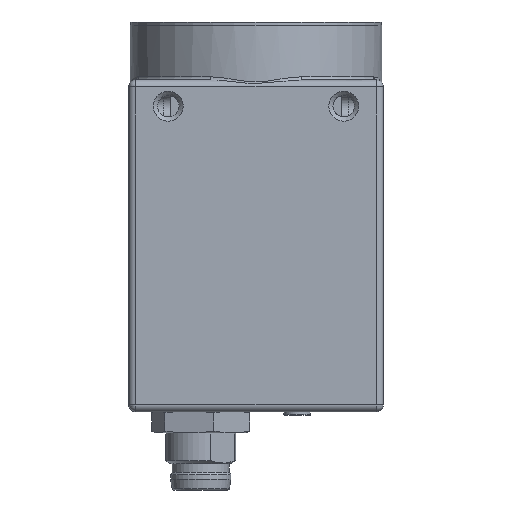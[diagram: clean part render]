
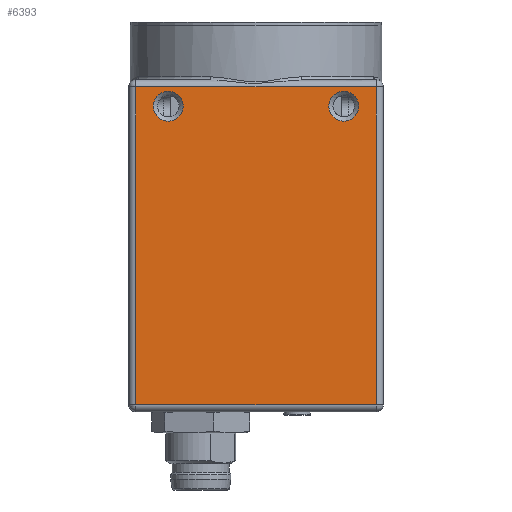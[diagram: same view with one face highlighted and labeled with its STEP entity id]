
A CAD part, left-side view. The second image highlights one B-rep face of the part: STEP entity #6393.
In plain terms, the highlighted planar face has unit normal (-1, 0, 0).
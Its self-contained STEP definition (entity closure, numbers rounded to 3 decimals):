
#6393 = ADVANCED_FACE( '', ( #13638, #13639, #13640 ), #13641, .T. );
#13638 = FACE_BOUND( '', #24364, .T. );
#13639 = FACE_BOUND( '', #24365, .T. );
#13640 = FACE_OUTER_BOUND( '', #24366, .T. );
#13641 = PLANE( '', #24367 );
#24364 = EDGE_LOOP( '', ( #38939 ) );
#24365 = EDGE_LOOP( '', ( #38940 ) );
#24366 = EDGE_LOOP( '', ( #38941, #38942, #38943, #38944 ) );
#24367 = AXIS2_PLACEMENT_3D( '', #38945, #38946, #38947 );
#38939 = ORIENTED_EDGE( '', *, *, #44865, .T. );
#38940 = ORIENTED_EDGE( '', *, *, #41557, .T. );
#38941 = ORIENTED_EDGE( '', *, *, #41578, .T. );
#38942 = ORIENTED_EDGE( '', *, *, #44799, .T. );
#38943 = ORIENTED_EDGE( '', *, *, #40873, .T. );
#38944 = ORIENTED_EDGE( '', *, *, #44869, .T. );
#38945 = CARTESIAN_POINT( '', ( -14.5, -14.5, 12.2 ) );
#38946 = DIRECTION( '', ( -1., 0., 0. ) );
#38947 = DIRECTION( '', ( 0., 0., 1. ) );
#40873 = EDGE_CURVE( '', #46474, #46472, #46475, .T. );
#41557 = EDGE_CURVE( '', #47593, #47593, #47594, .T. );
#41578 = EDGE_CURVE( '', #47627, #46722, #47628, .T. );
#44799 = EDGE_CURVE( '', #46722, #46474, #52187, .F. );
#44865 = EDGE_CURVE( '', #52265, #52265, #52266, .T. );
#44869 = EDGE_CURVE( '', #46472, #47627, #52270, .T. );
#46472 = VERTEX_POINT( '', #54476 );
#46474 = VERTEX_POINT( '', #54478 );
#46475 = LINE( '', #54479, #54480 );
#46722 = VERTEX_POINT( '', #54868 );
#47593 = VERTEX_POINT( '', #56259 );
#47594 = CIRCLE( '', #56260, 1.7 );
#47627 = VERTEX_POINT( '', #56303 );
#47628 = LINE( '', #56304, #56305 );
#52187 = LINE( '', #63361, #63362 );
#52265 = VERTEX_POINT( '', #63450 );
#52266 = CIRCLE( '', #63451, 1.7 );
#52270 = LINE( '', #63456, #63457 );
#54476 = CARTESIAN_POINT( '', ( -14.5, 13.7, 11.4 ) );
#54478 = CARTESIAN_POINT( '', ( -14.5, -13.7, 11.4 ) );
#54479 = CARTESIAN_POINT( '', ( -14.5, 14.5, 11.4 ) );
#54480 = VECTOR( '', #65028, 1000. );
#54868 = CARTESIAN_POINT( '', ( -14.5, -13.7, -24.85 ) );
#56259 = CARTESIAN_POINT( '', ( -14.5, 11.7, 9.2 ) );
#56260 = AXIS2_PLACEMENT_3D( '', #65913, #65914, #65915 );
#56303 = CARTESIAN_POINT( '', ( -14.5, 13.7, -24.85 ) );
#56304 = CARTESIAN_POINT( '', ( -14.5, -14.5, -24.85 ) );
#56305 = VECTOR( '', #65938, 1000. );
#63361 = CARTESIAN_POINT( '', ( -14.5, -13.7, 12.2 ) );
#63362 = VECTOR( '', #69428, 1000. );
#63450 = CARTESIAN_POINT( '', ( -14.5, -8.3, 9.2 ) );
#63451 = AXIS2_PLACEMENT_3D( '', #69479, #69480, #69481 );
#63456 = CARTESIAN_POINT( '', ( -14.5, 13.7, 12.2 ) );
#63457 = VECTOR( '', #69483, 1000. );
#65028 = DIRECTION( '', ( 0., 1., 0. ) );
#65913 = CARTESIAN_POINT( '', ( -14.5, 10., 9.2 ) );
#65914 = DIRECTION( '', ( 1., 0., 0. ) );
#65915 = DIRECTION( '', ( 0., 1., 0. ) );
#65938 = DIRECTION( '', ( 0., -1., 0. ) );
#69428 = DIRECTION( '', ( 0., 0., -1. ) );
#69479 = CARTESIAN_POINT( '', ( -14.5, -10., 9.2 ) );
#69480 = DIRECTION( '', ( 1., 0., 0. ) );
#69481 = DIRECTION( '', ( 0., 1., 0. ) );
#69483 = DIRECTION( '', ( 0., 0., -1. ) );
